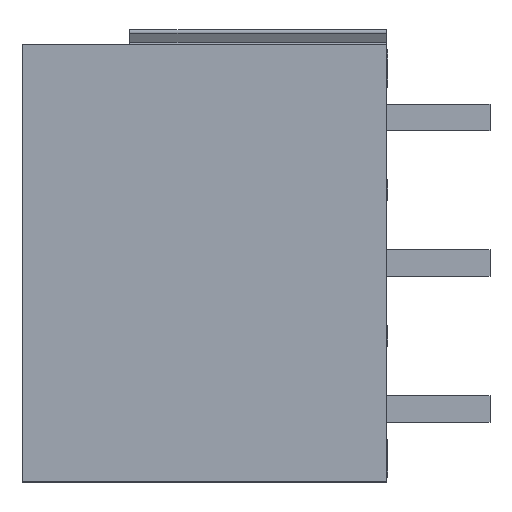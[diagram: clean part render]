
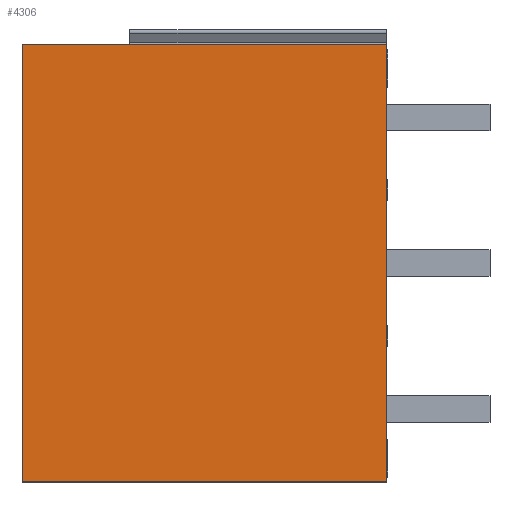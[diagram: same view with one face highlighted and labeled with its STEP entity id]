
A CAD part, top view. The second image highlights one B-rep face of the part: STEP entity #4306.
In plain terms, the highlighted planar face has unit normal (0, 0, 1).
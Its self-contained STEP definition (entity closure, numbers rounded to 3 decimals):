
#176=DIRECTION('',(0.,-1.,0.));
#177=VECTOR('',#176,15.);
#178=CARTESIAN_POINT('',(0.,15.,0.));
#179=LINE('',#178,#177);
#583=DIRECTION('',(-1.,0.,0.));
#584=VECTOR('',#583,12.5);
#585=CARTESIAN_POINT('',(12.5,15.,0.));
#586=LINE('',#585,#584);
#615=DIRECTION('',(-1.,0.,0.));
#616=VECTOR('',#615,12.5);
#617=CARTESIAN_POINT('',(12.5,0.,0.));
#618=LINE('',#617,#616);
#619=DIRECTION('',(0.,-1.,0.));
#620=VECTOR('',#619,15.);
#621=CARTESIAN_POINT('',(12.5,15.,0.));
#622=LINE('',#621,#620);
#2844=CARTESIAN_POINT('',(0.,0.,0.));
#2845=VERTEX_POINT('',#2844);
#2846=CARTESIAN_POINT('',(12.5,0.,0.));
#2847=VERTEX_POINT('',#2846);
#2896=CARTESIAN_POINT('',(12.5,15.,0.));
#2897=VERTEX_POINT('',#2896);
#2988=CARTESIAN_POINT('',(0.,15.,0.));
#2989=VERTEX_POINT('',#2988);
#4295=CARTESIAN_POINT('',(0.,0.,0.));
#4296=DIRECTION('',(0.,0.,1.));
#4297=DIRECTION('',(1.,0.,0.));
#4298=AXIS2_PLACEMENT_3D('',#4295,#4296,#4297);
#4299=PLANE('',#4298);
#4300=ORIENTED_EDGE('',*,*,#3893,.T.);
#4301=ORIENTED_EDGE('',*,*,#3815,.F.);
#4302=ORIENTED_EDGE('',*,*,#4257,.F.);
#4303=ORIENTED_EDGE('',*,*,#4068,.T.);
#4304=EDGE_LOOP('',(#4300,#4301,#4302,#4303));
#4305=FACE_OUTER_BOUND('',#4304,.F.);
#4306=ADVANCED_FACE('',(#4305),#4299,.T.);
#3815=EDGE_CURVE('',#2989,#2845,#179,.T.);
#3893=EDGE_CURVE('',#2847,#2845,#618,.T.);
#4068=EDGE_CURVE('',#2897,#2847,#622,.T.);
#4257=EDGE_CURVE('',#2897,#2989,#586,.T.);
